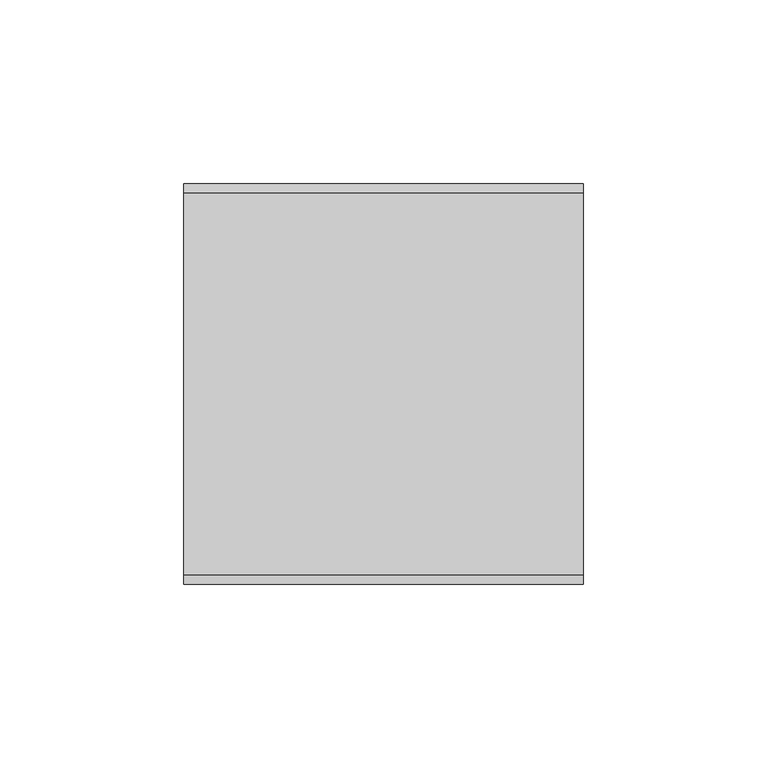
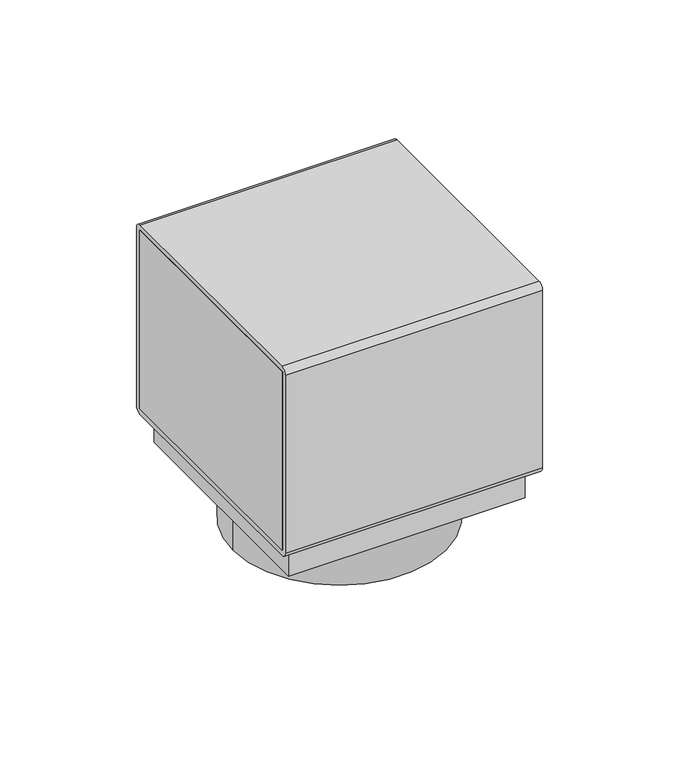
"""IFC4 building model written with IfcOpenShell, lengths in millimetres: proxy geometry, Electrical_Installation_Hager_VE-EE_Pedestal-box-2 : GB pedestal box 2 inst. fields deep black."""

import ifcopenshell
import ifcopenshell.guid

model = None  # the IFC model being written
_history = None  # IfcOwnerHistory: only IFC2X3 demands one
_inside = {}  # id of a spatial element -> (the spatial element, [elements in it])
_under = {}  # id of a project, library or spatial element -> (it, [spatial elements below it])
_declared = {}  # id of a project -> (the project, [libraries it declares])
_typed = {}  # id of a type object -> (the type object, [elements of that type])
_made_of = {}  # id of a material, layer set ... -> (it, [elements and type objects made of it])


def new_model(schema):
    """Start an empty IFC model of exactly this schema.

    Asked for "IFC4X3", IfcOpenShell would pick the latest addendum, in which some entities
    have other attributes; the version numbers below select the first issue.
    IFC2X3 requires an IfcOwnerHistory on every rooted entity: one is made here for all.
    """
    global model, _history
    if schema == "IFC4X3":
        model = ifcopenshell.file(schema_version=(4, 3, 0, 0))
    else:
        model = ifcopenshell.file(schema=schema)
    _inside.clear()
    _under.clear()
    _declared.clear()
    _typed.clear()
    _made_of.clear()
    _history = None
    if model.schema == "IFC2X3":
        org = make("IfcOrganization", Name="unknown")
        user = make(
            "IfcPersonAndOrganization",
            ThePerson=make("IfcPerson", FamilyName="unknown"),
            TheOrganization=org,
        )
        app = make(
            "IfcApplication",
            ApplicationDeveloper=org,
            Version="unknown",
            ApplicationFullName="unknown",
            ApplicationIdentifier="unknown",
        )
        _history = make(
            "IfcOwnerHistory",
            OwningUser=user,
            OwningApplication=app,
            ChangeAction="ADDED",
            CreationDate=0,
        )
    return model


def make(cls, **values):
    """One entity of the class cls with the attributes given. An attribute that is None is left unset."""
    return model.create_entity(
        cls, **{name: value for name, value in values.items() if value is not None}
    )


def rooted(cls, **values):
    """An entity with a GlobalId (a new one), such as an element, a storey or a relation."""
    return make(cls, GlobalId=ifcopenshell.guid.new(), OwnerHistory=_history, **values)


def si_unit(unit_type, name, prefix=None):
    """IfcSIUnit, for example si_unit("LENGTHUNIT", "METRE", prefix="MILLI")."""
    return make("IfcSIUnit", UnitType=unit_type, Prefix=prefix, Name=name)


def assignment(units):
    """IfcUnitAssignment: the units of a project."""
    return None if units is None else make("IfcUnitAssignment", Units=units)


def point(xyz):
    """IfcCartesianPoint."""
    return None if xyz is None else make("IfcCartesianPoint", Coordinates=xyz)


def direction(xyz):
    """IfcDirection."""
    return None if xyz is None else make("IfcDirection", DirectionRatios=xyz)


def frame(location, z_axis=None, x_axis=None):
    """IfcAxis2Placement3D, a coordinate frame: its origin and axes. An axis left out is left unset."""
    return make(
        "IfcAxis2Placement3D",
        Location=point(location),
        Axis=direction(z_axis),
        RefDirection=direction(x_axis),
    )


def frame_2d(location, x_axis=None):
    """IfcAxis2Placement2D, a coordinate frame in the plane: its origin and x axis."""
    return make(
        "IfcAxis2Placement2D", Location=point(location), RefDirection=direction(x_axis)
    )


def origin():
    """The frame at (0, 0, 0) with its axes left unset."""
    return frame((0.0, 0.0, 0.0))


def origin_with_axes():
    """The frame at (0, 0, 0) with the z axis (0, 0, 1) and the x axis (1, 0, 0) written out."""
    return frame((0.0, 0.0, 0.0), z_axis=(0.0, 0.0, 1.0), x_axis=(1.0, 0.0, 0.0))


def origin_2d():
    """The frame at (0, 0) in the plane with its x axis left unset."""
    return frame_2d((0.0, 0.0))


def place(relative_to, where):
    """IfcLocalPlacement: puts the frame where relative to a parent placement (None: the world)."""
    return make(
        "IfcLocalPlacement", PlacementRelTo=relative_to, RelativePlacement=where
    )


def context(
    kind, dimensions, precision=None, world=None, true_north=None, identifier=None
):
    """IfcGeometricRepresentationContext, for example the 3D "Model" context."""
    return make(
        "IfcGeometricRepresentationContext",
        ContextIdentifier=identifier,
        ContextType=kind,
        CoordinateSpaceDimension=dimensions,
        Precision=precision,
        WorldCoordinateSystem=world,
        TrueNorth=true_north,
    )


def project(units=None, contexts=None):
    """IfcProject with its units and contexts."""
    return rooted(
        "IfcProject",
        Name="project",
        RepresentationContexts=contexts,
        UnitsInContext=assignment(units),
    )


def spatial(cls, under=None, at=None, **own):
    """A site, building, storey or space (cls), placed at a placement, below another one or the project."""
    s = rooted(cls, ObjectPlacement=at, **own)
    if under is not None:
        _under.setdefault(under.id(), (under, []))[1].append(s)
    return s


def polyline(points):
    """IfcPolyline through the points."""
    return make("IfcPolyline", Points=[point(p) for p in points])


def circle_curve(where, radius):
    """IfcCircle in the frame where."""
    return make("IfcCircle", Position=where, Radius=radius)


def trimmed(basis, trim1, trim2, sense, master):
    """IfcTrimmedCurve: the piece of a basis curve between two trims."""
    return make(
        "IfcTrimmedCurve",
        BasisCurve=basis,
        Trim1=trim1,
        Trim2=trim2,
        SenseAgreement=sense,
        MasterRepresentation=master,
    )


def segment(curve, same_sense, transition):
    """IfcCompositeCurveSegment."""
    return make(
        "IfcCompositeCurveSegment",
        Transition=transition,
        SameSense=same_sense,
        ParentCurve=curve,
    )


def composite_curve(segments, self_intersect=None):
    """IfcCompositeCurve: segments joined end to end."""
    return make("IfcCompositeCurve", Segments=segments, SelfIntersect=self_intersect)


def outline(outer, holes=None, kind="AREA"):
    """IfcArbitraryClosedProfileDef: a profile drawn as a closed curve; with holes, ...WithVoids."""
    if holes is None:
        return make("IfcArbitraryClosedProfileDef", ProfileType=kind, OuterCurve=outer)
    return make(
        "IfcArbitraryProfileDefWithVoids",
        ProfileType=kind,
        OuterCurve=outer,
        InnerCurves=holes,
    )


def extrude(swept, where, along, depth):
    """IfcExtrudedAreaSolid: the profile swept, set in the frame where, extruded along a direction by depth."""
    return make(
        "IfcExtrudedAreaSolid",
        SweptArea=swept,
        Position=where,
        ExtrudedDirection=direction(along),
        Depth=depth,
    )


def shape(context_of_items, identifier, shape_type, items):
    """IfcShapeRepresentation: the items that make up one representation, for example the "Body"."""
    return make(
        "IfcShapeRepresentation",
        ContextOfItems=context_of_items,
        RepresentationIdentifier=identifier,
        RepresentationType=shape_type,
        Items=items,
    )


def source(mapping_origin, context_of_items, identifier, shape_type, items):
    """IfcRepresentationMap: a shape defined once, which mapped items show again and again."""
    return make(
        "IfcRepresentationMap",
        MappingOrigin=mapping_origin,
        MappedRepresentation=shape(context_of_items, identifier, shape_type, items),
    )


def transform(
    local_origin,
    x_axis=None,
    y_axis=None,
    z_axis=None,
    scale=None,
    scale2=None,
    scale3=None,
    uniform=True,
):
    """IfcCartesianTransformationOperator3D, or its non-uniform kind. x_axis, y_axis, z_axis: its Axis1, 2, 3."""
    if uniform:
        return make(
            "IfcCartesianTransformationOperator3D",
            Axis1=direction(x_axis),
            Axis2=direction(y_axis),
            LocalOrigin=point(local_origin),
            Scale=scale,
            Axis3=direction(z_axis),
        )
    return make(
        "IfcCartesianTransformationOperator3DnonUniform",
        Axis1=direction(x_axis),
        Axis2=direction(y_axis),
        LocalOrigin=point(local_origin),
        Scale=scale,
        Axis3=direction(z_axis),
        Scale2=scale2,
        Scale3=scale3,
    )


def mapped(mapping_source, mapping_target):
    """IfcMappedItem: shows the shape of a source again, moved by a transform."""
    return make(
        "IfcMappedItem", MappingSource=mapping_source, MappingTarget=mapping_target
    )


def made_of(thing, what):
    """Note that an element or type object is made of a material, layer set ...; save() writes the relation."""
    if what is not None:
        _made_of.setdefault(what.id(), (what, []))[1].append(thing)
    return thing


def element(
    cls,
    number,
    at=None,
    inside=None,
    cuts=None,
    type_object=None,
    material=None,
    context=None,
    identifier="Body",
    shape_type=None,
    held_by="IfcProductDefinitionShape",
    body=None,
    shapes=None,
    **own,
):
    """One element of the class cls, such as IfcWall. Its Tag is "e" and its number.

    at: its placement. inside: the storey or other place that contains it. cuts: it is an
    opening in that element (IfcRelVoidsElement). A single representation is given by context,
    identifier, shape_type and body (its items); several are given by shapes. held_by: the class
    of the entity that holds the representations. save() writes the other relations.
    """
    e = rooted(cls, Tag="e%d" % number, ObjectPlacement=at, **own)
    if body is not None:
        shapes = [shape(context, identifier, shape_type, body)]
    if shapes is not None:
        e.Representation = make(held_by, Representations=shapes)
    if inside is not None:
        _inside.setdefault(inside.id(), (inside, []))[1].append(e)
    if cuts is not None:
        rooted(
            "IfcRelVoidsElement", RelatingBuildingElement=cuts, RelatedOpeningElement=e
        )
    if type_object is not None:
        _typed.setdefault(type_object.id(), (type_object, []))[1].append(e)
    return made_of(e, material)


def aggregate(whole, parts):
    """IfcRelAggregates: a whole, such as a stair, and the parts it consists of."""
    return rooted("IfcRelAggregates", RelatingObject=whole, RelatedObjects=parts)


def save(model, path):
    """Write the relations noted so far, then the file.

    IfcRelAggregates (storeys below a building ...), IfcRelContainedInSpatialStructure (elements
    in a storey), IfcRelDefinesByType, IfcRelAssociatesMaterial and IfcRelDeclares: one each for
    every whole, place, type object, material and project.
    """
    for whole, parts in _under.values():
        aggregate(whole, parts)
    for where, things in _inside.values():
        rooted(
            "IfcRelContainedInSpatialStructure",
            RelatedElements=things,
            RelatingStructure=where,
        )
    for kind, things in _typed.values():
        rooted("IfcRelDefinesByType", RelatedObjects=things, RelatingType=kind)
    for what, things in _made_of.values():
        rooted("IfcRelAssociatesMaterial", RelatedObjects=things, RelatingMaterial=what)
    for by, libraries in _declared.values():
        rooted("IfcRelDeclares", RelatingContext=by, RelatedDefinitions=libraries)
    model.write(path)


def plane_surface(at):
    """IfcPlane: the flat surface through the origin of the frame at, square to its z axis."""
    return make("IfcPlane", Position=at)


def cylinder_surface(at, radius):
    """IfcCylindricalSurface: all points at the distance radius from the z axis of the frame at."""
    return make("IfcCylindricalSurface", Position=at, Radius=radius)


def revolved_surface(curve, axis_point, axis_direction):
    """IfcSurfaceOfRevolution: the curve turned about the line through axis_point along axis_direction."""
    return make(
        "IfcSurfaceOfRevolution",
        SweptCurve=make("IfcArbitraryOpenProfileDef", ProfileType="CURVE", Curve=curve),
        AxisPosition=make("IfcAxis1Placement", Location=point(axis_point), Axis=direction(axis_direction)),
    )


def advanced_brep(points, edges, surfaces, faces):
    """IfcAdvancedBrep: a solid bounded by faces that lie on surfaces and meet in shared edges.

    An edge is (start, end): straight between two places in points (the first is 0);
    or (start, end, curve); or (start, end, curve, False) where it runs against its curve.
    A face is (place in surfaces, loops), or (place, loops, False) where it looks against
    its surface's normal. A loop lists edges by number (the first is 1), with a minus sign
    where the edge is run from its end to its start. The first loop is the outer one.
    """
    corners = [point(p) for p in points]
    vertices = [make("IfcVertexPoint", VertexGeometry=c) for c in corners]
    made = []
    for start, end, *more in edges:
        made.append(
            make(
                "IfcEdgeCurve",
                EdgeStart=vertices[start],
                EdgeEnd=vertices[end],
                EdgeGeometry=more[0] if more else make("IfcPolyline", Points=[corners[start], corners[end]]),
                SameSense=more[1] if len(more) > 1 else True,
            )
        )
    hull = []
    for where, loops, *sense in faces:
        bounds = []
        for j, loop in enumerate(loops):
            ring = [make("IfcOrientedEdge", EdgeElement=made[abs(k) - 1], Orientation=k > 0) for k in loop]
            bounds.append(
                make(
                    "IfcFaceOuterBound" if j == 0 else "IfcFaceBound",
                    Bound=make("IfcEdgeLoop", EdgeList=ring),
                    Orientation=True,
                )
            )
        hull.append(make("IfcAdvancedFace", Bounds=bounds, FaceSurface=surfaces[where], SameSense=sense[0] if sense else True))
    return make("IfcAdvancedBrep", Outer=make("IfcClosedShell", CfsFaces=hull))


def electrical_fixtures_d994656d(model_context):
    return source(origin(), model_context, "Body", "SolidModel", [
        extrude(outline(polyline([(-54.4, -52.25), (-54.4, 52.25), (-48.9, 52.25), (-48.9, -52.25), (-54.4, -52.25)])), frame((0.0, 0.0, 14.8), z_axis=(0.0, 0.0, 1.0), x_axis=(1.0, 0.0, 0.0)), (0.0, 0.0, 1.0), 79.9),
        extrude(outline(polyline([(54.4, 52.25), (54.4, -52.25), (48.9, -52.25), (48.9, 52.25), (54.4, 52.25)])), frame((0.0, 0.0, 14.8), z_axis=(0.0, 0.0, 1.0), x_axis=(1.0, 0.0, 0.0)), (0.0, 0.0, 1.0), 79.9),
        extrude(outline(composite_curve([segment(trimmed(circle_curve(origin_2d(), 45.0), [point((-45.0, 0.0))], [point((45.0, 0.0))], False, "CARTESIAN"), True, "CONTINUOUS"), segment(trimmed(circle_curve(origin_2d(), 45.0), [point((45.0, 0.0))], [point((-45.0, 0.0))], False, "CARTESIAN"), True, "CONTINUOUS")], self_intersect=False), holes=[composite_curve([segment(trimmed(circle_curve(origin_2d(), 27.5), [point((-27.5, 0.0))], [point((27.5, 0.0))], True, "CARTESIAN"), True, "CONTINUOUS"), segment(trimmed(circle_curve(origin_2d(), 27.5), [point((27.5, 0.0))], [point((-27.5, 0.0))], True, "CARTESIAN"), True, "CONTINUOUS")], self_intersect=False)]), frame((0.0, 0.0, -20.0), z_axis=(0.0, 0.0, 1.0), x_axis=(1.0, 0.0, 0.0)), (0.0, 0.0, 1.0), 20.0),
        advanced_brep(
        [(54.4, -52.05, 97.0), (54.4, -54.55, 94.5), (54.4, -54.55, 15.0), (54.4, -52.05, 12.5), (54.4, 52.05, 12.5), (54.4, 54.55, 15.0), (54.4, 54.55, 94.5), (54.4, 52.05, 97.0), (54.4, 52.25, 94.7), (54.4, 52.25, 14.8), (54.4, -52.25, 14.8), (54.4, -52.25, 94.7), (-54.4, -52.05, 97.0), (-54.4, 52.05, 97.0), (-54.4, 54.55, 94.5), (-54.4, 54.55, 15.0), (-54.4, 52.05, 12.5), (-54.4, -52.05, 12.5), (-54.4, -54.55, 15.0), (-54.4, -54.55, 94.5), (-54.4, 52.25, 94.7), (-54.4, -52.25, 94.7), (-54.4, -52.25, 14.8), (-54.4, 52.25, 14.8), (-39.0, 0.0, 12.5), (39.0, 0.0, 12.5), (39.0, 0.0, 14.8), (-39.0, 0.0, 14.8)],
        [
            (0, 1, circle_curve(frame((54.4, -52.05, 94.5), z_axis=(1.0, 0.0, 0.0), x_axis=(0.0, 1.0, 0.0)), 2.5)),
            (1, 2),
            (2, 3, circle_curve(frame((54.4, -52.05, 15.0), z_axis=(1.0, 0.0, 0.0), x_axis=(0.0, 1.0, 0.0)), 2.5)),
            (3, 4),
            (4, 5, circle_curve(frame((54.4, 52.05, 15.0), z_axis=(1.0, 0.0, 0.0), x_axis=(0.0, 1.0, 0.0)), 2.5)),
            (5, 6),
            (6, 7, circle_curve(frame((54.4, 52.05, 94.5), z_axis=(1.0, 0.0, 0.0), x_axis=(0.0, 1.0, 0.0)), 2.5)),
            (7, 0),
            (8, 9),
            (9, 10),
            (10, 11),
            (11, 8),
            (12, 13),
            (13, 14, circle_curve(frame((-54.4, 52.05, 94.5), z_axis=(-1.0, 0.0, 0.0), x_axis=(0.0, 1.0, 0.0)), 2.5)),
            (14, 15),
            (15, 16, circle_curve(frame((-54.4, 52.05, 15.0), z_axis=(-1.0, 0.0, 0.0), x_axis=(0.0, 1.0, 0.0)), 2.5)),
            (16, 17),
            (17, 18, circle_curve(frame((-54.4, -52.05, 15.0), z_axis=(-1.0, 0.0, 0.0), x_axis=(0.0, 1.0, 0.0)), 2.5)),
            (18, 19),
            (19, 12, circle_curve(frame((-54.4, -52.05, 94.5), z_axis=(-1.0, 0.0, 0.0), x_axis=(0.0, 1.0, 0.0)), 2.5)),
            (20, 21),
            (21, 22),
            (22, 23),
            (23, 20),
            (0, 12),
            (19, 1),
            (18, 2),
            (17, 3),
            (16, 4),
            (24, 25, circle_curve(frame((0.0, 0.0, 12.5), z_axis=(0.0, 0.0, 1.0), x_axis=(1.0, 0.0, 0.0)), 39.0)),
            (25, 24, circle_curve(frame((0.0, 0.0, 12.5), z_axis=(0.0, 0.0, 1.0), x_axis=(1.0, 0.0, 0.0)), 39.0)),
            (15, 5),
            (14, 6),
            (13, 7),
            (8, 20),
            (23, 9),
            (22, 10),
            (26, 27, circle_curve(frame((0.0, 0.0, 14.8), z_axis=(0.0, 0.0, -1.0), x_axis=(1.0, 0.0, 0.0)), 39.0)),
            (27, 26, circle_curve(frame((0.0, 0.0, 14.8), z_axis=(0.0, 0.0, -1.0), x_axis=(1.0, 0.0, 0.0)), 39.0)),
            (21, 11),
            (26, 25),
            (24, 27),
        ],
        [
            plane_surface(frame((54.4, -49.55, 94.5), z_axis=(1.0, 0.0, 0.0), x_axis=(0.0, 0.0, 1.0))),
            plane_surface(frame((-54.4, -49.55, 94.5), z_axis=(-1.0, 0.0, 0.0), x_axis=(0.0, 0.0, -1.0))),
            cylinder_surface(frame((-54.4, -52.05, 94.5), z_axis=(1.0, 0.0, 0.0), x_axis=(0.0, 1.0, 0.0)), 2.5),
            plane_surface(frame((54.4, -54.55, 94.5), z_axis=(0.0, -1.0, 0.0), x_axis=(-1.0, 0.0, 0.0))),
            cylinder_surface(frame((-54.4, -52.05, 15.0), z_axis=(1.0, 0.0, 0.0), x_axis=(0.0, 1.0, 0.0)), 2.5),
            plane_surface(frame((54.4, -52.05, 12.5), z_axis=(0.0, 0.0, -1.0), x_axis=(-1.0, 0.0, 0.0))),
            cylinder_surface(frame((-54.4, 52.05, 15.0), z_axis=(1.0, 0.0, 0.0), x_axis=(0.0, 1.0, 0.0)), 2.5),
            plane_surface(frame((54.4, 54.55, 15.0), z_axis=(0.0, 1.0, 0.0), x_axis=(-1.0, 0.0, 0.0))),
            cylinder_surface(frame((-54.4, 52.05, 94.5), z_axis=(1.0, 0.0, 0.0), x_axis=(0.0, 1.0, 0.0)), 2.5),
            plane_surface(frame((54.4, 52.05, 97.0), z_axis=(0.0, 0.0, 1.0), x_axis=(-1.0, 0.0, 0.0))),
            plane_surface(frame((54.4, 52.25, 94.7), z_axis=(0.0, -1.0, 0.0), x_axis=(-1.0, 0.0, 0.0))),
            plane_surface(frame((54.4, 52.25, 14.8), z_axis=(0.0, 0.0, 1.0), x_axis=(-1.0, 0.0, 0.0))),
            plane_surface(frame((54.4, -52.25, 14.8), z_axis=(0.0, 1.0, 0.0), x_axis=(-1.0, 0.0, 0.0))),
            plane_surface(frame((54.4, -52.25, 94.7), z_axis=(0.0, 0.0, -1.0), x_axis=(-1.0, 0.0, 0.0))),
            revolved_surface(polyline([(39.0, 0.0, 14.8), (39.0, 0.0, 12.5)]), (0.0, 0.0, 12.5), (0.0, 0.0, 1.0)),
        ],
        [
            (0, [[1, 2, 3, 4, 5, 6, 7, 8], [9, 10, 11, 12]]),
            (1, [[13, 14, 15, 16, 17, 18, 19, 20], [21, 22, 23, 24]]),
            (2, [[-1, 25, -20, 26]]),
            (3, [[-2, -26, -19, 27]]),
            (4, [[-3, -27, -18, 28]]),
            (5, [[-4, -28, -17, 29], [30, 31]]),
            (6, [[-5, -29, -16, 32]]),
            (7, [[-6, -32, -15, 33]]),
            (8, [[-7, -33, -14, 34]]),
            (9, [[-8, -34, -13, -25]]),
            (10, [[-9, 35, -24, 36]]),
            (11, [[-10, -36, -23, 37], [38, 39]]),
            (12, [[-11, -37, -22, 40]]),
            (13, [[-12, -40, -21, -35]]),
            (14, [[41, -30, 42, -38]]),
            (14, [[-41, -39, -42, -31]]),
        ],
    ),
        extrude(outline(polyline([(1.25, 52.25), (1.25, -52.25), (-1.25, -52.25), (-1.25, 52.25), (1.25, 52.25)])), frame((0.0, 0.0, 14.8), z_axis=(0.0, 0.0, 1.0), x_axis=(1.0, 0.0, 0.0)), (0.0, 0.0, 1.0), 79.9),
        extrude(outline(polyline([(50.0, -49.3), (-50.0, -49.3), (-50.0, 49.3), (50.0, 49.3), (50.0, -49.3)]), holes=[composite_curve([segment(trimmed(circle_curve(frame_2d((-28.5912964, 0.7333267)), 5.0), [point((-24.4955362, 3.6012089))], [point((-25.7234143, -3.3624335))], False, "CARTESIAN"), True, "CONTINUOUS"), segment(polyline([(-25.7234143, -3.3624335), (-34.1678222, -9.2752716)]), True, "CONTINUOUS"), segment(trimmed(circle_curve(frame_2d((-31.29994, -13.3710318)), 5.0), [point((-34.1678222, -9.2752716))], [point((-35.8979613, -15.335262))], True, "CARTESIAN"), True, "CONTINUOUS"), segment(trimmed(circle_curve(origin_2d(), 39.0363149), [point((-35.8979613, -15.335262))], [point((-26.6882584, -28.4880808))], True, "CARTESIAN"), True, "CONTINUOUS"), segment(trimmed(circle_curve(frame_2d((-23.2698699, -24.8391604)), 5.0), [point((-26.6882584, -28.4880808))], [point((-20.4019877, -28.9349206))], True, "CARTESIAN"), True, "CONTINUOUS"), segment(polyline([(-20.4019877, -28.9349206), (-11.9575798, -23.0220826)]), True, "CONTINUOUS"), segment(trimmed(circle_curve(frame_2d((-9.0896976, -27.1178428)), 5.0), [point((-11.9575798, -23.0220826))], [point((-4.9939374, -24.2499606))], False, "CARTESIAN"), True, "CONTINUOUS"), segment(polyline([(-4.9939374, -24.2499606), (3.2975997, -36.0915028)]), True, "CONTINUOUS"), segment(trimmed(circle_curve(frame_2d((7.3933599, -33.2236206)), 5.0), [point((3.2975997, -36.0915028))], [point((8.4794587, -38.1042342))], True, "CARTESIAN"), True, "CONTINUOUS"), segment(trimmed(circle_curve(origin_2d(), 39.0363149), [point((8.4794587, -38.1042342))], [point((32.906122, -21.0005004))], True, "CARTESIAN"), True, "CONTINUOUS"), segment(trimmed(circle_curve(frame_2d((28.6913131, -18.3106332)), 5.0), [point((32.906122, -21.0005004))], [point((32.7870733, -15.442751))], True, "CARTESIAN"), True, "CONTINUOUS"), segment(polyline([(32.7870733, -15.442751), (24.4955362, -3.6012089)]), True, "CONTINUOUS"), segment(trimmed(circle_curve(frame_2d((28.5912964, -0.7333267)), 5.0), [point((24.4955362, -3.6012089))], [point((25.7234143, 3.3624335))], False, "CARTESIAN"), True, "CONTINUOUS"), segment(polyline([(25.7234143, 3.3624335), (34.1678222, 9.2752716)]), True, "CONTINUOUS"), segment(trimmed(circle_curve(frame_2d((31.29994, 13.3710318)), 5.0), [point((34.1678222, 9.2752716))], [point((35.8979613, 15.335262))], True, "CARTESIAN"), True, "CONTINUOUS"), segment(trimmed(circle_curve(origin_2d(), 39.0363149), [point((35.8979613, 15.335262))], [point((26.6882584, 28.4880808))], True, "CARTESIAN"), True, "CONTINUOUS"), segment(trimmed(circle_curve(frame_2d((23.2698699, 24.8391604)), 5.0), [point((26.6882584, 28.4880808))], [point((20.4019877, 28.9349206))], True, "CARTESIAN"), True, "CONTINUOUS"), segment(polyline([(20.4019877, 28.9349206), (11.9575798, 23.0220826)]), True, "CONTINUOUS"), segment(trimmed(circle_curve(frame_2d((9.0896976, 27.1178428)), 5.0), [point((11.9575798, 23.0220826))], [point((4.9939374, 24.2499606))], False, "CARTESIAN"), True, "CONTINUOUS"), segment(polyline([(4.9939374, 24.2499606), (-3.2975997, 36.0915028)]), True, "CONTINUOUS"), segment(trimmed(circle_curve(frame_2d((-7.3933599, 33.2236206)), 5.0), [point((-3.2975997, 36.0915028))], [point((-8.4794587, 38.1042342))], True, "CARTESIAN"), True, "CONTINUOUS"), segment(trimmed(circle_curve(origin_2d(), 39.0363149), [point((-8.4794587, 38.1042342))], [point((-32.906122, 21.0005004))], True, "CARTESIAN"), True, "CONTINUOUS"), segment(trimmed(circle_curve(frame_2d((-28.6913131, 18.3106332)), 5.0), [point((-32.906122, 21.0005004))], [point((-32.7870733, 15.442751))], True, "CARTESIAN"), True, "CONTINUOUS"), segment(polyline([(-32.7870733, 15.442751), (-24.4955362, 3.6012089)]), True, "CONTINUOUS")], self_intersect=False)]), origin_with_axes(), (0.0, 0.0, 1.0), 12.5),
    ])


if __name__ == "__main__":
    model = new_model("IFC4")
    model_context = context("Model", 3, world=origin())
    ifc_project = project(units=[si_unit("LENGTHUNIT", "METRE", prefix="MILLI")], contexts=[model_context])
    site = spatial("IfcSite", under=ifc_project)
    building = spatial("IfcBuilding", under=site)
    placement = place(None, origin())
    electrical_fixtures_shape = electrical_fixtures_d994656d(model_context)
    element("IfcBuildingElementProxy", 1, Name="Electrical_Installation_Hager_VE-EE_Pedestal-box-2 : GB pedestal box 2 inst. fields deep black", ObjectType="Electrical_Installation_Hager_VE-EE_Pedestal-box-2 : GB pedestal box 2 inst. fields deep black", at=placement, inside=building, context=model_context, shape_type="MappedRepresentation", body=[
        mapped(electrical_fixtures_shape, transform((0.0, 0.0, 0.0), x_axis=(1.0, 0.0, 0.0), y_axis=(0.0, 1.0, 0.0), z_axis=(0.0, 0.0, 1.0))),
    ])
    save(model, "model.ifc")
